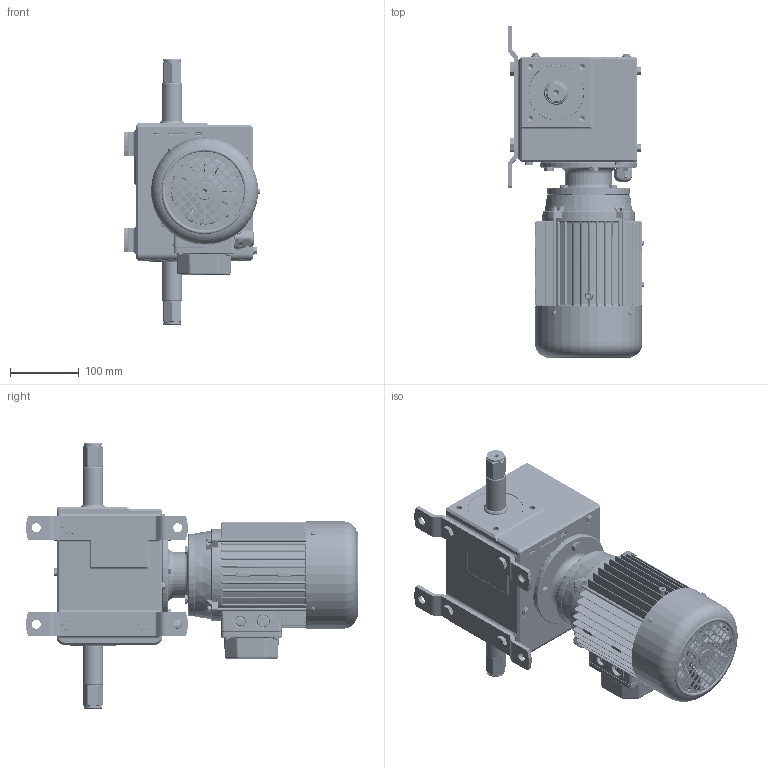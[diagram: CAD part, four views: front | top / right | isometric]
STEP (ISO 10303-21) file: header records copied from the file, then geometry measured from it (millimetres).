
FILE_DESCRIPTION (( 'STEP AP214' ), '1' );
FILE_NAME ('010204604_EWA_14_3D__DE_12214.6005.6616.STEP', '2022-10-18T13:38:39', ( '' ), ( '' ), 'SwSTEP 2.0', 'SolidWorks 2022', '' );
FILE_SCHEMA (( 'AUTOMOTIVE_DESIGN' ));
Length unit declared in the file: millimetre
Products named in the file (25): 010200791_EWA_14_3D__DE_Ohne Inhalt; Deckel_10000048; Schraube_10014320; Elektroteil_10028709; Schraube_10018291; 010186907__3D-Modell_DE_90000.0001.0239_10186907_DIN EN 24017 - M6 x 20-N; Dichtelement_10064826; 010202652__3D__DE_84104.0110.PM01; Gehäuse_10147719_END 20-90000.0002.6251-m.sB; 010200792_EWA_14_3D__DE; Scheibe_10002061; 010204604_EWA_14_3D__DE_12214.6005.6616; Elektroteil_10001640; Welle_10136686; Dichtelement_10001203; Wälzlager_10001868; 010204605_EWA_14_3D__DE_Ohne Inhalt; Schraube_10028710; 010191515_Normteil_Kaufteil_3D-Modell_DE_10191515; Montageplatte_10000170; Dichtelement_10001564; Schraube_10057197; Elektroteil_10001639; Kennzeichnung_10001854; Deckel_10028707_78x7
Assembly tree (47 placements, depth 3):
  010204604_EWA_14_3D__DE_12214.6005.6616
    010204605_EWA_14_3D__DE_Ohne Inhalt
      Gehäuse_10147719_END 20-90000.0002.6251-m.sB
      Wälzlager_10001868
      Montageplatte_10000170  x2
      Deckel_10000048
      Scheibe_10002061  x8
      Schraube_10018291  x4
      010191515_Normteil_Kaufteil_3D-Modell_DE_10191515  x4
      Elektroteil_10028709
      Elektroteil_10001639
      Elektroteil_10001640
      Welle_10136686
      Dichtelement_10064826
      Deckel_10028707_78x7
      Schraube_10028710  x4
      Dichtelement_10001564
    Kennzeichnung_10001854
    Schraube_10014320
    Schraube_10057197  x4
    010200791_EWA_14_3D__DE_Ohne Inhalt
      010200792_EWA_14_3D__DE
      Dichtelement_10001203
      010186907__3D-Modell_DE_90000.0001.0239_10186907_DIN EN 24017 - M6 x 20-N  x4
    010202652__3D__DE_84104.0110.PM01
Bounding box: 197.56 x 481.42 x 385 mm (x, y, z)
Volume: 2859320.8 mm3; surface area: 1220924.6 mm2
Topology: 94 solids, 99 shells, 10029 faces, 24705 edges, 14767 vertices
Faces by surface type: cylinder 2786, plane 2576, bspline 1971, torus 1223, cone 1124, sphere 349
Entity records: 626275 total; most frequent: CARTESIAN_POINT 342095, ORIENTED_EDGE 46376, DIRECTION 38365, EDGE_CURVE 23188, AXIS2_PLACEMENT_3D 14853, VERTEX_POINT 14106, EDGE_LOOP 10198, ADVANCED_FACE 9536
